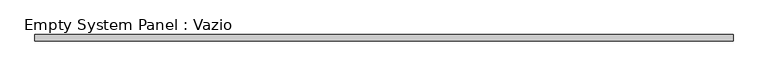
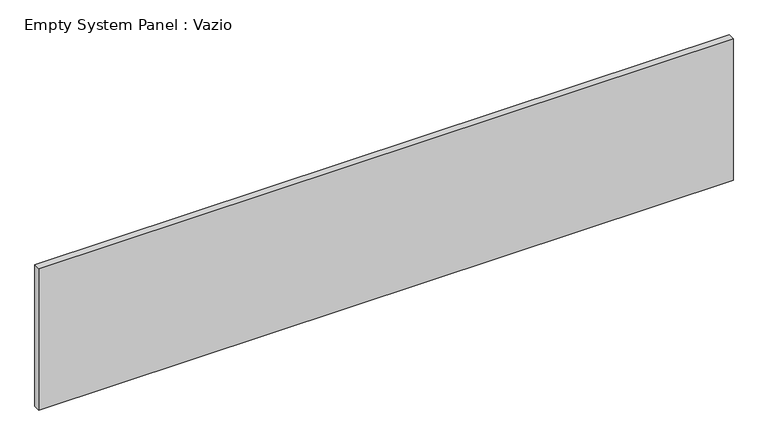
"""IFC4 building model written with IfcOpenShell, lengths in millimetres: plate geometry, Empty System Panel : Vazio."""

from ifc_helpers import new_model, si_unit, origin, origin_with_axes, place, context, project, spatial, polyline, outline, extrude, source, transform, mapped, element, save


def empty_system_panel_vazio_4908c82f(model_context):
    return source(origin(), model_context, "Body", "SweptSolid", [
        extrude(outline(polyline([(5350.003242, 50.0), (-5350.003242, 50.0), (-5350.003242, 150.0), (5350.003242, 150.0), (5350.003242, 50.0)])), origin_with_axes(), (0.0, 0.0, 1.0), 2304.5229798),
    ])


if __name__ == "__main__":
    model = new_model("IFC4")
    model_context = context("Model", 3, world=origin())
    ifc_project = project(units=[si_unit("LENGTHUNIT", "METRE", prefix="MILLI")], contexts=[model_context])
    site = spatial("IfcSite", under=ifc_project)
    building = spatial("IfcBuilding", under=site)
    placement = place(None, origin())
    empty_system_panel_vazio_shape = empty_system_panel_vazio_4908c82f(model_context)
    element("IfcPlate", 1, ObjectType="Empty System Panel : Vazio", at=placement, inside=building, context=model_context, shape_type="MappedRepresentation", body=[
        mapped(empty_system_panel_vazio_shape, transform((0.0, 0.0, 0.0), x_axis=(1.0, 0.0, 0.0), y_axis=(0.0, 1.0, 0.0), z_axis=(0.0, 0.0, 1.0))),
    ])
    save(model, "model.ifc")
